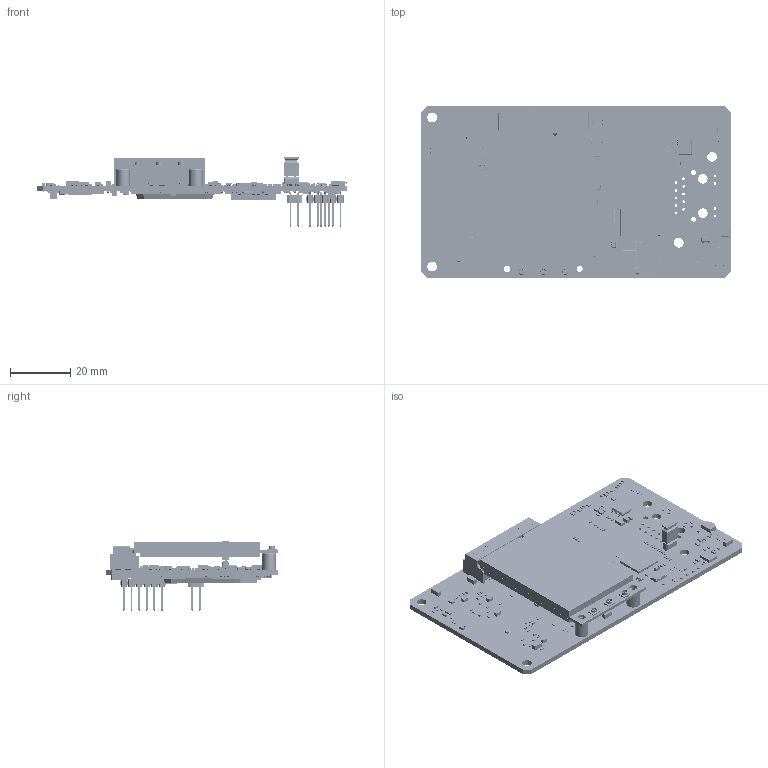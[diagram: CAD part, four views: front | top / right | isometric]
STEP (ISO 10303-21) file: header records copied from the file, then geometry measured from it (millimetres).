
FILE_DESCRIPTION(('Open CASCADE Model'),'2;1');
FILE_NAME('Open CASCADE Shape Model','2014-09-10T15:07:43',('Author'),( 'Open CASCADE'),'Open CASCADE STEP processor 6.2','Open CASCADE 6.2' ,'Unknown');
FILE_SCHEMA(('AUTOMOTIVE_DESIGN { 1 0 10303 214 1 1 1 1 }'));
Length unit declared in the file: millimetre
Products named in the file (489): PCB; Board; R103; User_Library-SMD_RESISTOR-0603; R102; R101; R19; Y2; User_Library-CRYSTALSMD5X32; U21; 624494000; Extruded; 547749624; Cylinder; RP17; User_Library-CAY10_RESCAXS80P160X320X60-8N.STEP; RP16; RP15; RP14; R174; User_Library-res0201-1; R167; User_Library-res0402-1; R132; R131; R127; R126; R100; R65; R64; R63; R60; R58; R57; R56; R38; R34; D1; User_Library-CDSU101A; User_Library-CDSU101A_Extruded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
Assembly tree (879 placements, depth 5):
  PCB
    Board
    R103
      User_Library-SMD_RESISTOR-0603
    R102
      User_Library-SMD_RESISTOR-0603
    R101
      User_Library-SMD_RESISTOR-0603
    R19
      User_Library-SMD_RESISTOR-0603
    Y2
      User_Library-CRYSTALSMD5X32
    U21
      624494000
        Extruded
      547749624
        Cylinder
    RP17
      User_Library-CAY10_RESCAXS80P160X320X60-8N.STEP
    RP16
      User_Library-CAY10_RESCAXS80P160X320X60-8N.STEP
    RP15
      User_Library-CAY10_RESCAXS80P160X320X60-8N.STEP
    RP14
      User_Library-CAY10_RESCAXS80P160X320X60-8N.STEP
    R174
      User_Library-res0201-1
    R167
      User_Library-res0402-1
    R132
      User_Library-res0402-1
    R131
      User_Library-res0402-1
    R127
      User_Library-res0402-1
    R126
      User_Library-res0402-1
    R100
      User_Library-SMD_RESISTOR-0603
    R65
      User_Library-res0402-1
    R64
      User_Library-res0402-1
    R63
      User_Library-res0402-1
    R60
      User_Library-res0402-1
    R58
      User_Library-res0402-1
    R57
      User_Library-res0402-1
    R56
      User_Library-res0402-1
    R38
      User_Library-res0402-1
    R34
      User_Library-res0201-1
    D1
      User_Library-CDSU101A
        User_Library-CDSU101A_Extruded
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Bounding box: 103.06 x 57 x 23.25 mm (x, y, z)
Volume: 22303.3 mm3; surface area: 36469.3 mm2
Topology: 902 solids, 902 shells, 28901 faces, 73139 edges, 44399 vertices
Faces by surface type: plane 18180, cylinder 7466, sphere 1826, bspline 1377, cone 50, torus 2
Full cylindrical faces by diameter (mm): 0.075 x13, 0.2 x5, 0.4 x5, 0.6 x7, 0.925 x16, 1 x1, 1.1 x1, 1.6 x1, 1.625 x2, 3.2 x2, 3.225 x4, 3.425 x2
Entity records: 653461 total; most frequent: CARTESIAN_POINT 159671, DIRECTION 85362, LINE 57922, VECTOR 57922, ORIENTED_EDGE 48254, PCURVE 48254, DEFINITIONAL_REPRESENTATION 48254, EDGE_CURVE 24127
